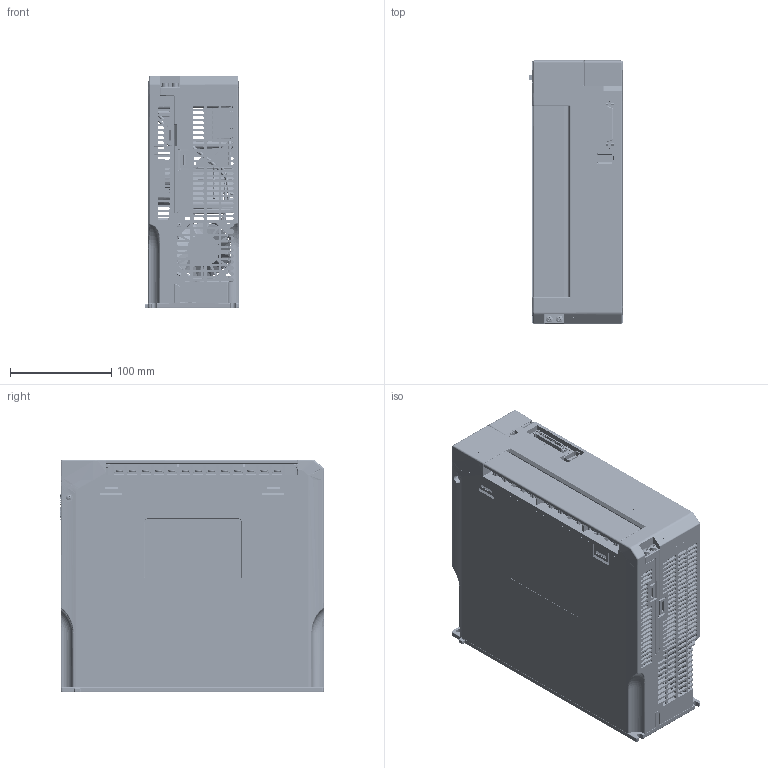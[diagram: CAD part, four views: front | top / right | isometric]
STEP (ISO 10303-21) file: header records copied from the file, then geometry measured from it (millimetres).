
FILE_DESCRIPTION (( 'STEP AP203' ), '1' );
FILE_NAME ('F½á¹¹-DMC.STEP', '2022-11-28T03:30:35', ( '' ), ( '' ), 'SwSTEP 2.0', 'SolidWorks 2018', '' );
FILE_SCHEMA (( 'CONFIG_CONTROL_DESIGN' ));
Products named in the file (2): F賦凳-DMC
Bounding box: 93 x 260.3 x 230.01 mm (x, y, z)
Surface area: 1165160.2 mm2 (no closed solid volume)
Topology: 0 solids, 76 shells, 15979 faces, 43319 edges, 27462 vertices
Faces by surface type: plane 9684, cylinder 3463, bspline 1688, torus 416, cone 401, sphere 327
Full cylindrical faces by diameter (mm): 56 x1
Entity records: 559462 total; most frequent: CARTESIAN_POINT 174030, ORIENTED_EDGE 85876, DIRECTION 71210, EDGE_CURVE 42944, VECTOR 29066, LINE 29066, VERTEX_POINT 27435, AXIS2_PLACEMENT_3D 21072
